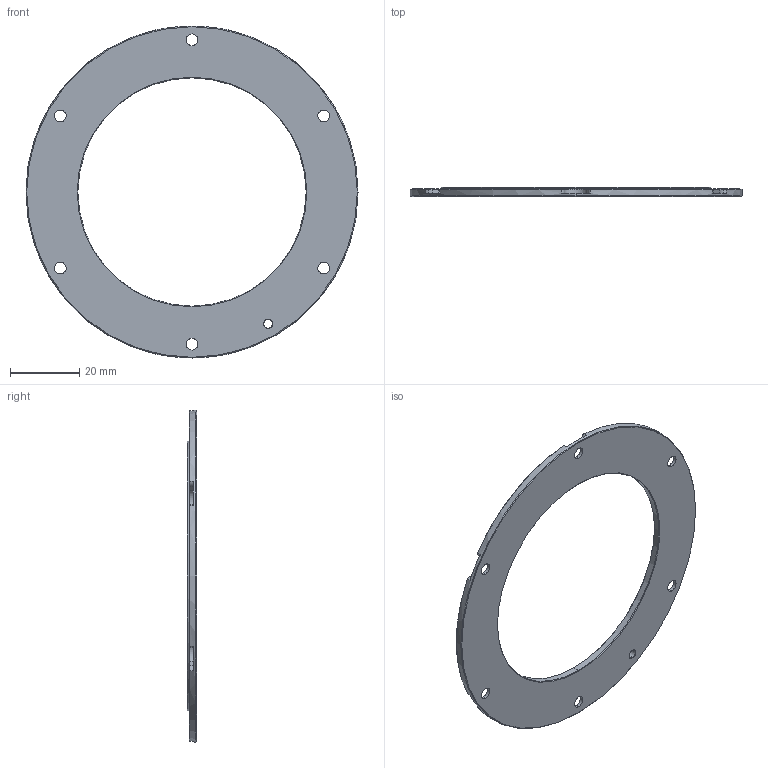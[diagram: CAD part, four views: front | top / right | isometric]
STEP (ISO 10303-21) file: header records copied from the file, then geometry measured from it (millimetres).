
FILE_DESCRIPTION (( 'STEP AP214' ), '1' );
FILE_NAME ('GRR-096-B11-ST.STEP', '2023-03-23T18:17:27', ( '' ), ( '' ), 'SwSTEP 2.0', 'SolidWorks 2021', '' );
FILE_SCHEMA (( 'AUTOMOTIVE_DESIGN' ));
Length unit declared in the file: millimetre
Products named in the file (1): GRR-096-B11-ST
Bounding box: 96 x 2.7 x 96 mm (x, y, z)
Volume: 8454.1 mm3; surface area: 10940.8 mm2
Topology: 2 solids, 2 shells, 124 faces, 305 edges, 187 vertices
Faces by surface type: cylinder 49, cone 39, plane 36
Entity records: 5123 total; most frequent: DIRECTION 694, CARTESIAN_POINT 653, ORIENTED_EDGE 610, EDGE_CURVE 305, AXIS2_PLACEMENT_3D 276, VERTEX_POINT 187, CIRCLE 151, EDGE_LOOP 144
